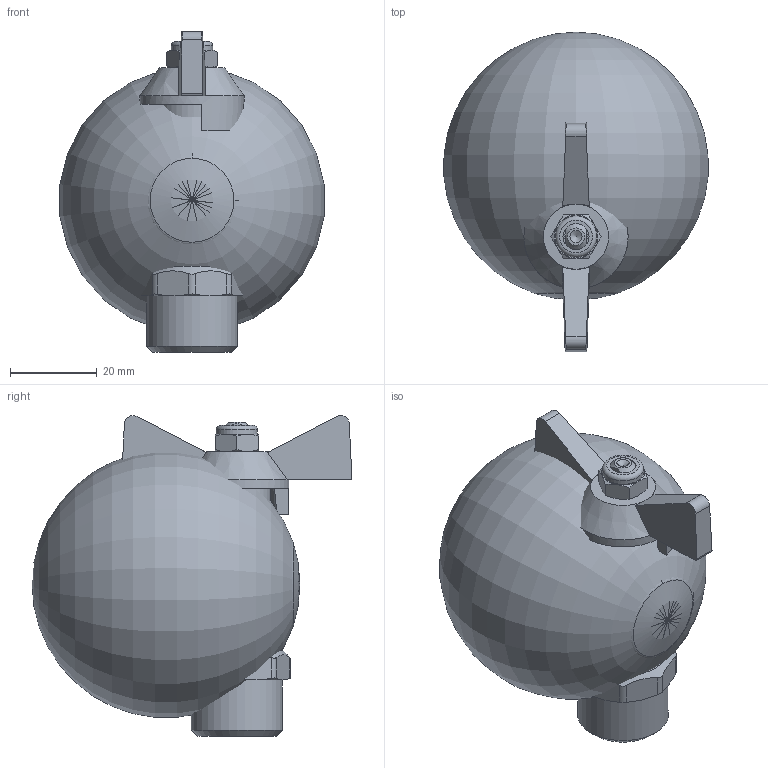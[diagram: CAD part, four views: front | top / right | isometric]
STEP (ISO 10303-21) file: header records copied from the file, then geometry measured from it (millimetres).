
FILE_DESCRIPTION(('STEP AP203'), '1');
FILE_NAME('VT.267.N.0404', '', ('UNSPECIFIED'), ('UNSPECIFIED'), 'C3D Converter', 'C3D Toolkit', '');
FILE_SCHEMA(('CONFIG_CONTROL_DESIGN'));
Length unit declared in the file: millimetre
Products named in the file (1): ВР.491816.033.000 СБ
Bounding box: 60.76 x 73.57 x 73.83 mm (x, y, z)
Surface area: 25928 mm2
Topology: 4 solids, 5 shells, 789 faces, 2121 edges, 1368 vertices
Faces by surface type: plane 308, extrusion 284, cylinder 94, cone 55, bspline 24, torus 20, sphere 4
Full cylindrical faces by diameter (mm): 6 x1, 9.5 x1, 10.5 x1, 12 x1, 14.4 x1, 15 x1, 15.5 x1, 16.5 x1, 18.6 x1, 18.632 x2, 18.8 x1, 20 x1, 20.7 x1, 20.955 x1, 24 x1, 25 x1, 27.3 x1
Entity records: 35565 total; most frequent: CARTESIAN_POINT 17929, ORIENTED_EDGE 4116, DIRECTION 2678, EDGE_CURVE 2059, VERTEX_POINT 1366, B_SPLINE_CURVE_WITH_KNOTS 1065, VECTOR 1062, EDGE_LOOP 882
